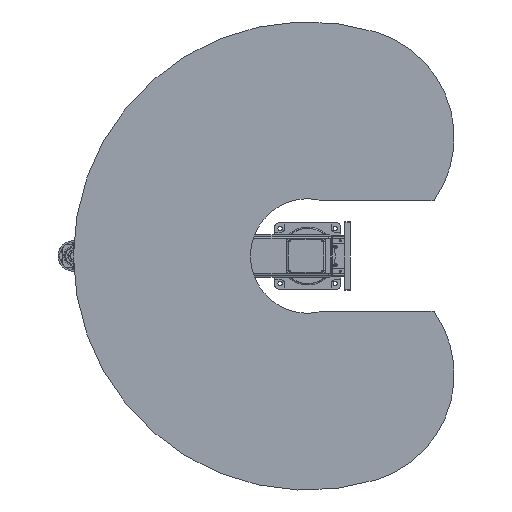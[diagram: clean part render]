
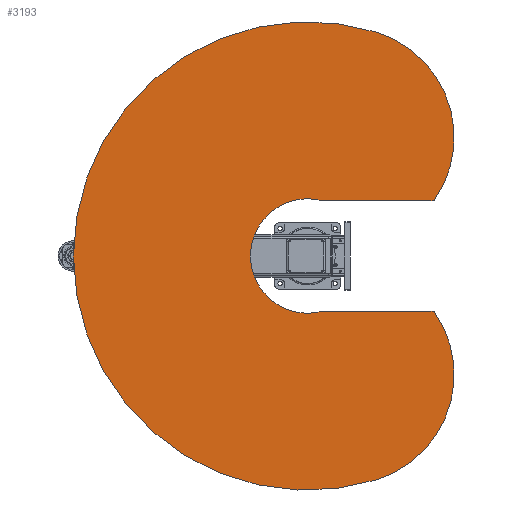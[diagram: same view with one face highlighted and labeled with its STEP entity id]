
A CAD part, front view. The second image highlights one B-rep face of the part: STEP entity #3193.
In plain terms, the highlighted planar face has unit normal (0, -1, 0).
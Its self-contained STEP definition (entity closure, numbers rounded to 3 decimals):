
#3193 = ADVANCED_FACE( '', ( #8693 ), #8694, .F. );
#8693 = FACE_OUTER_BOUND( '', #17496, .T. );
#8694 = PLANE( '', #17497 );
#17496 = EDGE_LOOP( '', ( #28429, #28430, #28431, #28432, #28433, #28434 ) );
#17497 = AXIS2_PLACEMENT_3D( '', #28435, #28436, #28437 );
#28429 = ORIENTED_EDGE( '', *, *, #48916, .F. );
#28430 = ORIENTED_EDGE( '', *, *, #48917, .F. );
#28431 = ORIENTED_EDGE( '', *, *, #48918, .T. );
#28432 = ORIENTED_EDGE( '', *, *, #48919, .F. );
#28433 = ORIENTED_EDGE( '', *, *, #48920, .F. );
#28434 = ORIENTED_EDGE( '', *, *, #48921, .F. );
#28435 = CARTESIAN_POINT( '', ( 430.337, 0., 131.567 ) );
#28436 = DIRECTION( '', ( 0., 1., 0. ) );
#28437 = DIRECTION( '', ( 0., 0., 1. ) );
#48916 = EDGE_CURVE( '', #57994, #57995, #57996, .T. );
#48917 = EDGE_CURVE( '', #57997, #57994, #57998, .T. );
#48918 = EDGE_CURVE( '', #57997, #57999, #58000, .T. );
#48919 = EDGE_CURVE( '', #58001, #57999, #58002, .T. );
#48920 = EDGE_CURVE( '', #58003, #58001, #58004, .T. );
#48921 = EDGE_CURVE( '', #57995, #58003, #58005, .T. );
#57994 = VERTEX_POINT( '', #71457 );
#57995 = VERTEX_POINT( '', #71458 );
#57996 = CIRCLE( '', #71459, 400. );
#57997 = VERTEX_POINT( '', #71460 );
#57998 = LINE( '', #71461, #71462 );
#57999 = VERTEX_POINT( '', #71463 );
#58000 = CIRCLE( '', #71464, 207.8 );
#58001 = VERTEX_POINT( '', #71465 );
#58002 = LINE( '', #71466, #71467 );
#58003 = VERTEX_POINT( '', #71468 );
#58004 = CIRCLE( '', #71469, 400. );
#58005 = CIRCLE( '', #71470, 850. );
#71457 = CARTESIAN_POINT( '', ( 200., 0., 458.591 ) );
#71458 = CARTESIAN_POINT( '', ( 812.859, 0., 248.516 ) );
#71459 = AXIS2_PLACEMENT_3D( '', #89591, #89592, #89593 );
#71460 = CARTESIAN_POINT( '', ( 200., 0., 56.399 ) );
#71461 = CARTESIAN_POINT( '', ( 200., 0., 56.399 ) );
#71462 = VECTOR( '', #89594, 1000. );
#71463 = CARTESIAN_POINT( '', ( -200., 0., 56.399 ) );
#71464 = AXIS2_PLACEMENT_3D( '', #89595, #89596, #89597 );
#71465 = CARTESIAN_POINT( '', ( -200., 0., 458.591 ) );
#71466 = CARTESIAN_POINT( '', ( -200., 0., 458.591 ) );
#71467 = VECTOR( '', #89598, 1000. );
#71468 = CARTESIAN_POINT( '', ( -812.859, 0., 248.516 ) );
#71469 = AXIS2_PLACEMENT_3D( '', #89599, #89600, #89601 );
#71470 = AXIS2_PLACEMENT_3D( '', #89602, #89603, #89604 );
#89591 = CARTESIAN_POINT( '', ( 430.337, 0., 131.567 ) );
#89592 = DIRECTION( '', ( 0., 1., 0. ) );
#89593 = DIRECTION( '', ( 1., 0., 0. ) );
#89594 = DIRECTION( '', ( 0., 0., 1. ) );
#89595 = CARTESIAN_POINT( '', ( 0., 0., 0. ) );
#89596 = DIRECTION( '', ( 0., 1., 0. ) );
#89597 = DIRECTION( '', ( 1., 0., 0. ) );
#89598 = DIRECTION( '', ( 0., 0., -1. ) );
#89599 = CARTESIAN_POINT( '', ( -430.337, 0., 131.567 ) );
#89600 = DIRECTION( '', ( 0., 1., 0. ) );
#89601 = DIRECTION( '', ( 1., 0., 0. ) );
#89602 = CARTESIAN_POINT( '', ( 0., 0., 0. ) );
#89603 = DIRECTION( '', ( 0., 1., 0. ) );
#89604 = DIRECTION( '', ( 1., 0., 0. ) );
